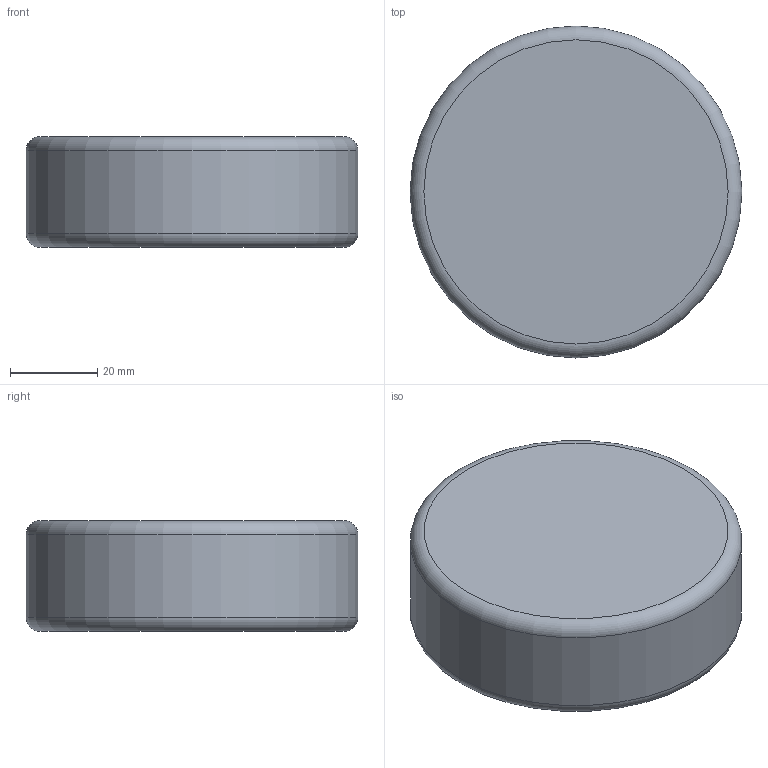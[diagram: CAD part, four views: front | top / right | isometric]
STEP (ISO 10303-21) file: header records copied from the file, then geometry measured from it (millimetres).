
FILE_DESCRIPTION(/* description */ ('STEP AP242','CAx-IF Rec.Pracs.---Representation and Presentation of Product Manufacturing Information (PMI)---4.0---2014-10-13','CAx-IF Rec.Pracs.---3D Tessellated Geometry---0.4---2014-09-14','2;1'),/* implementation_level */ '2;1');
FILE_NAME(/* name */ '67647e38f8cfce46106854b7',/* time_stamp */ '2024-12-19T20:12:41Z',/* author */ (''),/* organization */ (''),/* preprocessor_version */ 'ST-DEVELOPER v20',/* originating_system */ 'ONSHAPE BY PTC INC, 1.191',/* authorisation */ ' ');
FILE_SCHEMA (('AP242_MANAGED_MODEL_BASED_3D_ENGINEERING_MIM_LF { 1 0 10303 442 1 1 4 }'));
Length unit declared in the file: metre
Products named in the file (1): Part 1
Bounding box: 76.2 x 76.2 x 25.4 mm (x, y, z)
Volume: 114816.9 mm3; surface area: 14539.8 mm2
Topology: 1 solids, 1 shells, 5 faces, 7 edges, 4 vertices
Faces by surface type: plane 2, torus 2, cylinder 1
Full cylindrical faces by diameter (mm): 76.2 x1
Entity records: 116 total; most frequent: DIRECTION 20, CARTESIAN_POINT 14, AXIS2_PLACEMENT_3D 10, ORIENTED_EDGE 8, EDGE_LOOP 8, FACE_BOUND 8, ADVANCED_FACE 5, EDGE_CURVE 4
